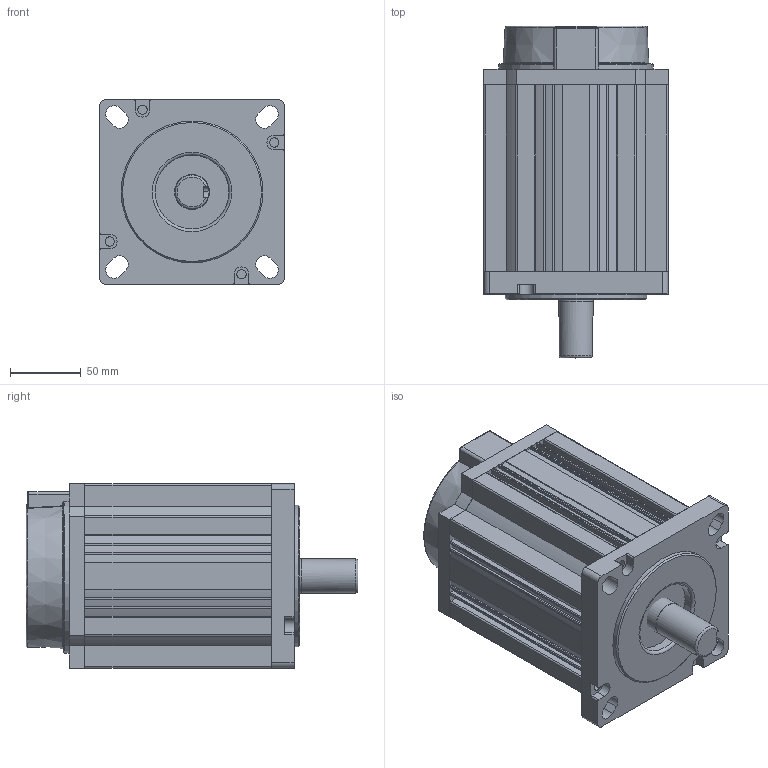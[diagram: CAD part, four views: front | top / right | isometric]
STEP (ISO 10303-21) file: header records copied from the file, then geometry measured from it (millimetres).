
FILE_DESCRIPTION(/* description */ (''),/* implementation_level */ '2;1');
FILE_NAME(/* name */ '130BYG350A-X.stp',/* time_stamp */ '2024-08-16T14:43:32+08:00',/* author */ (''),/* organization */ (''),/* preprocessor_version */ 'ST-DEVELOPER v18.1',/* originating_system */ 'SIEMENS PLM Software NX 2000',/* authorisation */ '');
FILE_SCHEMA (('AUTOMOTIVE_DESIGN { 1 0 10303 214 3 1 1 1 }'));
Length unit declared in the file: millimetre
Products named in the file (1): 925032A4A3696tvy
Bounding box: 130 x 234 x 130 mm (x, y, z)
Volume: 2620635.2 mm3; surface area: 240128.3 mm2
Topology: 5 solids, 5 shells, 279 faces, 778 edges, 514 vertices
Faces by surface type: plane 133, cylinder 126, bspline 10, torus 6, cone 2, sphere 2
Full cylindrical faces by diameter (mm): 6.5 x12, 10.5 x4, 24 x1, 24.7 x1, 52 x1, 100 x1
Entity records: 9170 total; most frequent: CARTESIAN_POINT 1892, DIRECTION 1529, ORIENTED_EDGE 1478, EDGE_CURVE 739, AXIS2_PLACEMENT_3D 540, VERTEX_POINT 500, LINE 449, VECTOR 449
